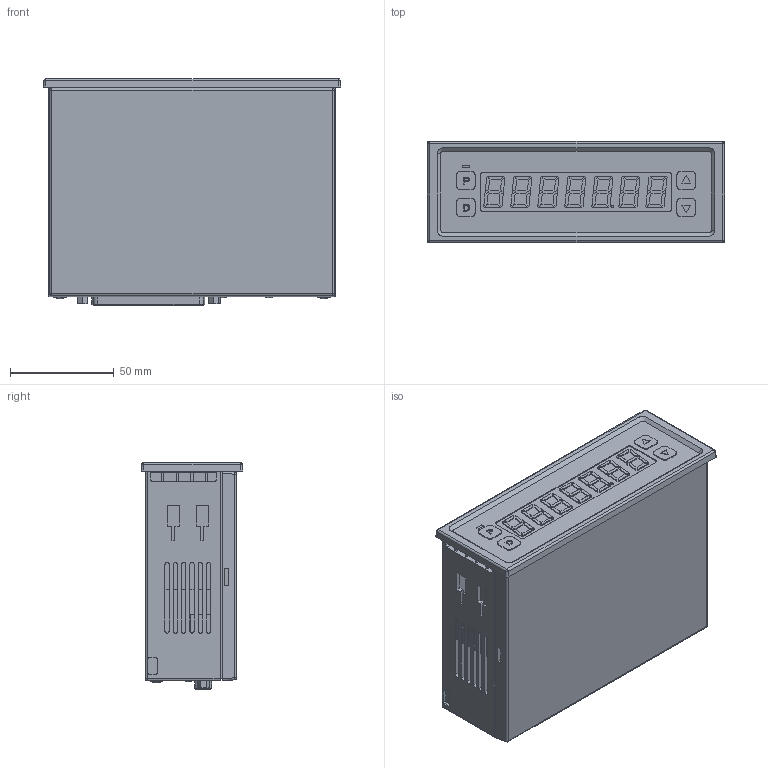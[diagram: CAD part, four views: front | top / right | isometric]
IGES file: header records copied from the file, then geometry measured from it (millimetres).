
Start section: SolidWorks IGES file using analytic representation for surfaces
Bounding box: 143 x 49 x 109 mm (x, y, z)
Surface area: 115831.6 mm2 (no closed solid volume)
Topology: 0 solids, 0 shells, 1702 faces, 15225 edges, 15215 vertices
Faces by surface type: bspline 1248, revolution 454
